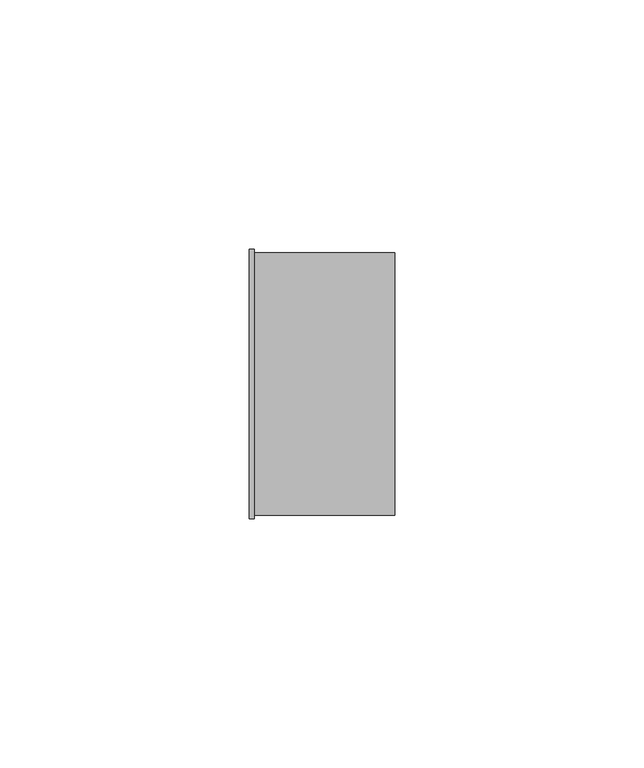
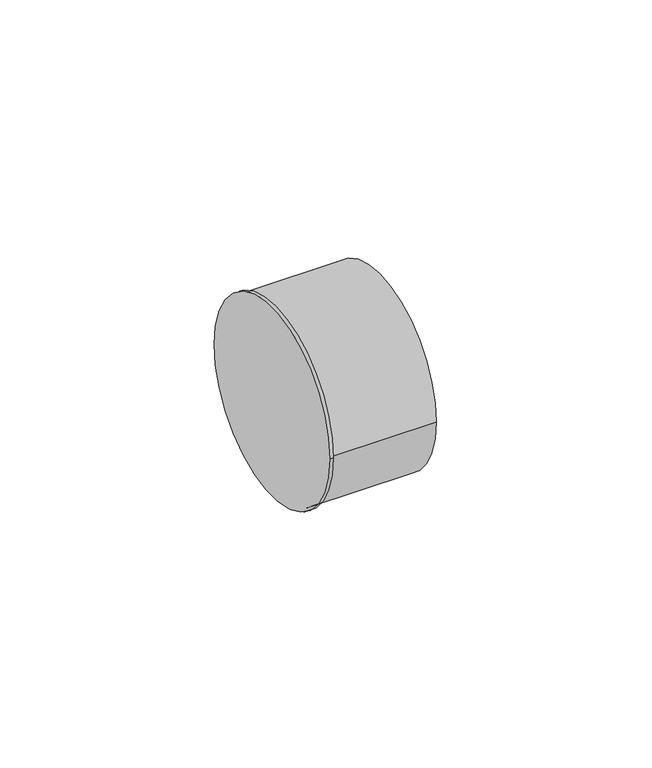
"""IFC4 building model written with IfcOpenShell, lengths in millimetres: pipe fitting geometry, Bucha de redução reta - Soldada - CU : Padrão."""

from ifc_helpers import new_model, si_unit, frame, origin, place, context, project, spatial, circle_curve, source, transform, mapped, element, save
from ifc_brep_helpers import plane_surface, cylinder_surface, advanced_brep


def pipe_fitting_f709da16(model_context):
    return source(origin(), model_context, "Body", "AdvancedBrep", [
        advanced_brep(
        [(0.0, -26.965, 0.0), (0.0, 26.965, 0.0), (1.0, -26.965, 0.0), (1.0, 26.965, 0.0), (1.0, -26.308, 0.0), (1.0, 26.308, 0.0), (29.076, -26.308, 0.0), (29.076, 26.308, 0.0)],
        [
            (0, 1, circle_curve(frame((0.0, 0.0, 0.0), z_axis=(-1.0, 0.0, 0.0), x_axis=(0.0, 1.0, 0.0)), 26.965)),
            (1, 0, circle_curve(frame((0.0, 0.0, 0.0), z_axis=(-1.0, 0.0, 0.0), x_axis=(0.0, 1.0, 0.0)), 26.965)),
            (2, 3, circle_curve(frame((1.0, 0.0, 0.0), z_axis=(1.0, 0.0, 0.0), x_axis=(0.0, 1.0, 0.0)), 26.965)),
            (3, 2, circle_curve(frame((1.0, 0.0, 0.0), z_axis=(1.0, 0.0, 0.0), x_axis=(0.0, 1.0, 0.0)), 26.965)),
            (4, 5, circle_curve(frame((1.0, 0.0, 0.0), z_axis=(-1.0, 0.0, 0.0), x_axis=(0.0, 1.0, 0.0)), 26.308)),
            (5, 4, circle_curve(frame((1.0, 0.0, 0.0), z_axis=(-1.0, 0.0, 0.0), x_axis=(0.0, 1.0, 0.0)), 26.308)),
            (0, 2),
            (3, 1),
            (6, 7, circle_curve(frame((29.076, 0.0, 0.0), z_axis=(1.0, 0.0, 0.0), x_axis=(0.0, 1.0, 0.0)), 26.308)),
            (7, 6, circle_curve(frame((29.076, 0.0, 0.0), z_axis=(1.0, 0.0, 0.0), x_axis=(0.0, 1.0, 0.0)), 26.308)),
            (7, 5),
            (4, 6),
        ],
        [
            plane_surface(frame((0.0, 0.0, 0.0), z_axis=(-1.0, 0.0, 0.0), x_axis=(0.0, 0.0, 1.0))),
            plane_surface(frame((1.0, 0.0, 0.0), z_axis=(1.0, 0.0, 0.0), x_axis=(0.0, 0.0, 1.0))),
            cylinder_surface(frame((0.0, 0.0, 0.0), z_axis=(-1.0, 0.0, 0.0), x_axis=(0.0, 1.0, 0.0)), 26.965),
            plane_surface(frame((29.076, 0.0, 0.0), z_axis=(1.0, 0.0, 0.0), x_axis=(0.0, 0.0, 1.0))),
            cylinder_surface(frame((1.0, 0.0, 0.0), z_axis=(-1.0, 0.0, 0.0), x_axis=(0.0, 1.0, 0.0)), 26.308),
        ],
        [
            (0, [[1, 2]]),
            (1, [[3, 4], [5, 6]]),
            (2, [[-1, 7, -4, 8]]),
            (2, [[-2, -8, -3, -7]]),
            (3, [[9, 10]]),
            (4, [[-10, 11, -5, 12]]),
            (4, [[-9, -12, -6, -11]]),
        ],
    ),
    ])


if __name__ == "__main__":
    model = new_model("IFC4")
    model_context = context("Model", 3, world=origin())
    ifc_project = project(units=[si_unit("LENGTHUNIT", "METRE", prefix="MILLI")], contexts=[model_context])
    site = spatial("IfcSite", under=ifc_project)
    building = spatial("IfcBuilding", under=site)
    placement = place(None, origin())
    pipe_fitting_shape = pipe_fitting_f709da16(model_context)
    element("IfcPipeFitting", 1, ObjectType="Bucha de redução reta - Soldada - CU : Padrão", at=placement, inside=building, context=model_context, shape_type="MappedRepresentation", body=[
        mapped(pipe_fitting_shape, transform((0.0, 0.0, 0.0), x_axis=(1.0, 0.0, 0.0), y_axis=(0.0, 1.0, 0.0), z_axis=(0.0, 0.0, 1.0))),
    ])
    save(model, "model.ifc")
